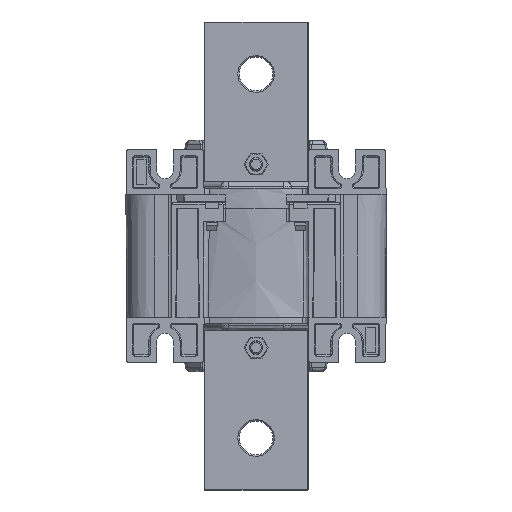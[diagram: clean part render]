
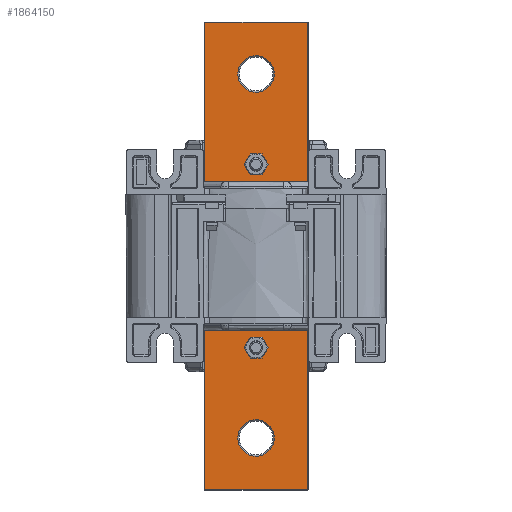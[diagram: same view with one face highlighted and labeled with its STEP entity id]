
A CAD part, front view. The second image highlights one B-rep face of the part: STEP entity #1864150.
In plain terms, the highlighted planar face has unit normal (0, -1, 0).
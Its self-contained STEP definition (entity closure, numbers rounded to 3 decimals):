
#1862960=CARTESIAN_POINT('',(7.372,-0.69,85.65))
;
#1862970=VERTEX_POINT('',#1862960);
#1863050=CARTESIAN_POINT('',(-6.628,-0.69,85.65)
);
#1863060=VERTEX_POINT('',#1863050);
#1863090=CARTESIAN_POINT('',(0.372,-0.69,85.65)
);
#1863100=DIRECTION('',(0.,1.,0.));
#1863110=DIRECTION('',(-1.,0.,0.));
#1863120=AXIS2_PLACEMENT_3D('',#1863090,#1863100,#1863110);
#1863130=CIRCLE('',#1863120,7.);
#1863140=EDGE_CURVE('',#1863060,#1862970,#1863130,.T.);
#1863260=CARTESIAN_POINT('',(-107.37,-0.69,
-127.432));
#1863270=DIRECTION('',(0.,-1.,0.));
#1863280=DIRECTION('',(1.,0.,0.));
#1863290=AXIS2_PLACEMENT_3D('',#1863260,#1863270,#1863280);
#1863300=PLANE('',#1863290);
#1863310=EDGE_CURVE('',#1862970,#1863060,#1863130,.T.);
#1863320=ORIENTED_EDGE('',*,*,#1863310,.T.);
#1863330=ORIENTED_EDGE('',*,*,#1863140,.T.);
#1863340=EDGE_LOOP('',(#1863330,#1863320));
#1863350=FACE_BOUND('',#1863340,.T.);
#1863360=CARTESIAN_POINT('',(0.372,-0.69,-19.6)
);
#1863370=DIRECTION('',(0.,-1.,0.));
#1863380=DIRECTION('',(-1.,0.,0.));
#1863390=AXIS2_PLACEMENT_3D('',#1863360,#1863370,#1863380);
#1863400=CIRCLE('',#1863390,3.9);
#1863410=CARTESIAN_POINT('',(4.272,-0.69,-19.6))
;
#1863420=VERTEX_POINT('',#1863410);
#1863430=CARTESIAN_POINT('',(-3.528,-0.69,-19.6)
);
#1863440=VERTEX_POINT('',#1863430);
#1863450=EDGE_CURVE('',#1863420,#1863440,#1863400,.T.);
#1863460=ORIENTED_EDGE('',*,*,#1863450,.F.);
#1863470=EDGE_CURVE('',#1863440,#1863420,#1863400,.T.);
#1863480=ORIENTED_EDGE('',*,*,#1863470,.F.);
#1863490=EDGE_LOOP('',(#1863480,#1863460));
#1863500=FACE_BOUND('',#1863490,.T.);
#1863510=CARTESIAN_POINT('',(0.372,-0.69,50.9))
;
#1863520=DIRECTION('',(0.,-1.,0.));
#1863530=DIRECTION('',(-1.,0.,0.));
#1863540=AXIS2_PLACEMENT_3D('',#1863510,#1863520,#1863530);
#1863550=CIRCLE('',#1863540,3.9);
#1863560=CARTESIAN_POINT('',(4.272,-0.69,50.9));
#1863570=VERTEX_POINT('',#1863560);
#1863580=CARTESIAN_POINT('',(-3.528,-0.69,50.9))
;
#1863590=VERTEX_POINT('',#1863580);
#1863600=EDGE_CURVE('',#1863570,#1863590,#1863550,.T.);
#1863610=ORIENTED_EDGE('',*,*,#1863600,.F.);
#1863620=EDGE_CURVE('',#1863590,#1863570,#1863550,.T.);
#1863630=ORIENTED_EDGE('',*,*,#1863620,.F.);
#1863640=EDGE_LOOP('',(#1863630,#1863610));
#1863650=FACE_BOUND('',#1863640,.T.);
#1863660=CARTESIAN_POINT('',(0.372,-0.69,-54.35
));
#1863670=DIRECTION('',(0.,1.,0.));
#1863680=DIRECTION('',(-1.,0.,0.));
#1863690=AXIS2_PLACEMENT_3D('',#1863660,#1863670,#1863680);
#1863700=CIRCLE('',#1863690,7.);
#1863710=CARTESIAN_POINT('',(7.372,-0.69,-54.35)
);
#1863720=VERTEX_POINT('',#1863710);
#1863730=CARTESIAN_POINT('',(-6.628,-0.69,-54.35
));
#1863740=VERTEX_POINT('',#1863730);
#1863750=EDGE_CURVE('',#1863720,#1863740,#1863700,.T.);
#1863760=ORIENTED_EDGE('',*,*,#1863750,.T.);
#1863770=EDGE_CURVE('',#1863740,#1863720,#1863700,.T.);
#1863780=ORIENTED_EDGE('',*,*,#1863770,.T.);
#1863790=EDGE_LOOP('',(#1863780,#1863760));
#1863800=FACE_BOUND('',#1863790,.T.);
#1863810=CARTESIAN_POINT('',(-19.328,-0.69,15.5));
#1863820=DIRECTION('',(0.,0.,1.));
#1863830=VECTOR('',#1863820,1.);
#1863840=LINE('',#1863810,#1863830);
#1863850=CARTESIAN_POINT('',(-19.328,-0.69,-74.05));
#1863860=VERTEX_POINT('',#1863850);
#1863870=CARTESIAN_POINT('',(-19.328,-0.69,105.35
));
#1863880=VERTEX_POINT('',#1863870);
#1863890=EDGE_CURVE('',#1863860,#1863880,#1863840,.T.);
#1863900=ORIENTED_EDGE('',*,*,#1863890,.F.);
#1863910=CARTESIAN_POINT('',(0.522,-0.69,105.35)
);
#1863920=DIRECTION('',(1.,0.,0.));
#1863930=VECTOR('',#1863920,1.);
#1863940=LINE('',#1863910,#1863930);
#1863950=CARTESIAN_POINT('',(20.072,-0.69,105.35));
#1863960=VERTEX_POINT('',#1863950);
#1863970=EDGE_CURVE('',#1863880,#1863960,#1863940,.T.);
#1863980=ORIENTED_EDGE('',*,*,#1863970,.F.);
#1863990=CARTESIAN_POINT('',(20.072,-0.69,15.5));
#1864000=DIRECTION('',(0.,0.,-1.));
#1864010=VECTOR('',#1864000,1.);
#1864020=LINE('',#1863990,#1864010);
#1864030=CARTESIAN_POINT('',(20.072,-0.69,-74.05));
#1864040=VERTEX_POINT('',#1864030);
#1864050=EDGE_CURVE('',#1863960,#1864040,#1864020,.T.);
#1864060=ORIENTED_EDGE('',*,*,#1864050,.F.);
#1864070=CARTESIAN_POINT('',(0.372,-0.69,-74.05
));
#1864080=DIRECTION('',(-1.,0.,0.));
#1864090=VECTOR('',#1864080,1.);
#1864100=LINE('',#1864070,#1864090);
#1864110=EDGE_CURVE('',#1864040,#1863860,#1864100,.T.);
#1864120=ORIENTED_EDGE('',*,*,#1864110,.F.);
#1864130=EDGE_LOOP('',(#1864120,#1864060,#1863980,#1863900));
#1864140=FACE_OUTER_BOUND('',#1864130,.T.);
#1864150=ADVANCED_FACE('',(#1863350,#1863500,#1863650,#1863800,#1864140)
,#1863300,.T.);
